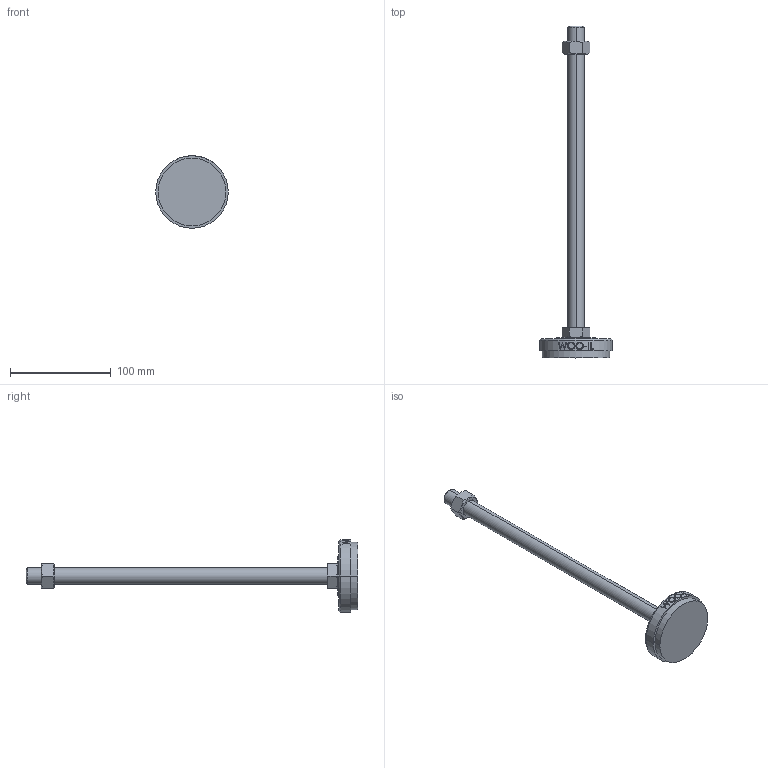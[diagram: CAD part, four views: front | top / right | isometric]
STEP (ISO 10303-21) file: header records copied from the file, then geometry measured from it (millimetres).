
FILE_DESCRIPTION (( 'STEP AP214' ), '1' );
FILE_NAME ('NS72-M16-300.step', '2021-01-11T05:47:55', ( '' ), ( '' ), 'SwSTEP 2.0', 'SolidWorks 2019', '' );
FILE_SCHEMA (( 'AUTOMOTIVE_DESIGN' ));
Length unit declared in the file: millimetre
Products named in the file (2): NS72-M16-300
Bounding box: 72 x 330 x 72 mm (x, y, z)
Volume: 143781.8 mm3; surface area: 31336.2 mm2
Topology: 3 solids, 3 shells, 96 faces, 223 edges, 144 vertices
Faces by surface type: plane 48, cylinder 18, bspline 16, cone 12, torus 2
Entity records: 4262 total; most frequent: CARTESIAN_POINT 2137, ORIENTED_EDGE 446, DIRECTION 381, EDGE_CURVE 223, VERTEX_POINT 144, AXIS2_PLACEMENT_3D 142, EDGE_LOOP 109, LINE 97
